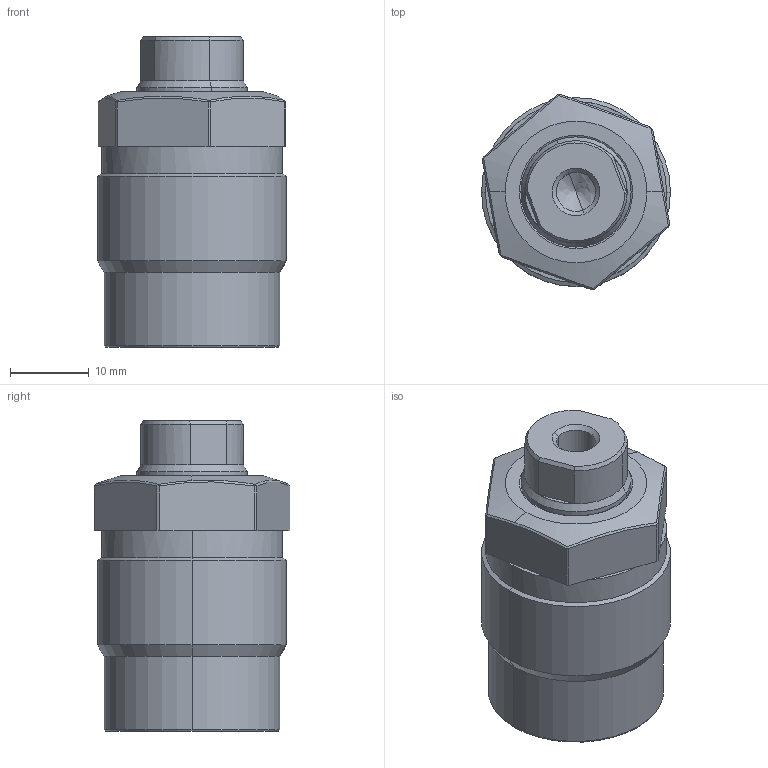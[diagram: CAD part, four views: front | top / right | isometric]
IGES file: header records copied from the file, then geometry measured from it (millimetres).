
Start section: SolidWorks IGES file using analytic representation for surfaces
Global section: file name: F:\THREADED BODY PUSHER-STD\TO3C-M242-S.IGS; native system: SolidWorks 2019; preprocessor: SolidWorks 2019; author: ADMIN; date: 200709.102123; units: millimetre
Bounding box: 24 x 24.87 x 39.5 mm (x, y, z)
Volume: 12819.1 mm3; surface area: 5995.1 mm2
Topology: 2 solids, 2 shells, 87 faces, 196 edges, 116 vertices
Faces by surface type: revolution 43, plane 38, bspline 6
